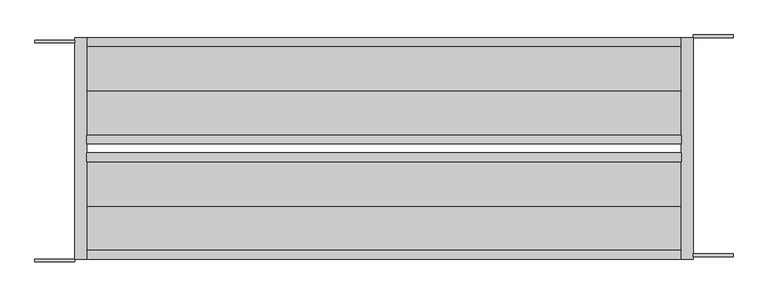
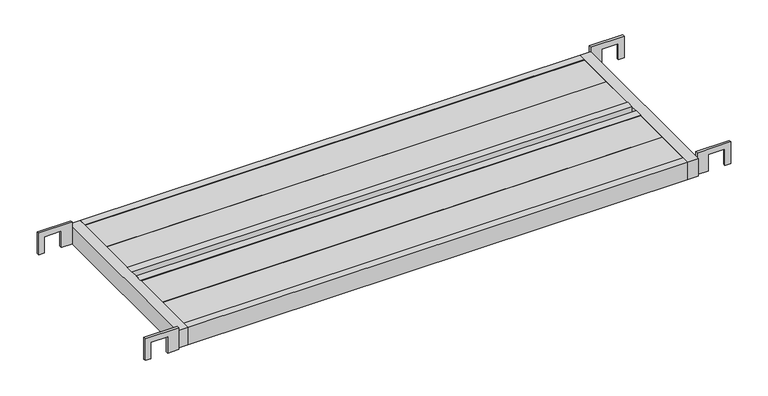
"""IFC4 building model written with IfcOpenShell, lengths in millimetres: proxy geometry, AKK布板HF-515_斜線なし_軽 : 鋼製布板 HF-515."""

from ifc_helpers import new_model, si_unit, frame, origin, place, context, project, spatial, polyline, outline, extrude, source, transform, mapped, element, save


def generic_models_806800af(model_context):
    return source(origin(), model_context, "Body", "SweptSolid", [
        extrude(outline(polyline([(37.5, 1460.0), (-24.1, 1460.0), (-24.1, 1489.5), (22.0, 1489.5), (22.0, 1534.5), (-24.1, 1534.5), (-24.1, 1549.5), (37.5, 1549.5), (37.5, 1460.0)])), frame((0.0, 12.0, 0.0), z_axis=(0.0, 1.0, 0.0), x_axis=(0.0, 0.0, 1.0)), (0.0, 0.0, 1.0), 6.0),
        extrude(outline(polyline([(37.5, 1460.0), (-24.1, 1460.0), (-24.1, 1489.5), (22.0, 1489.5), (22.0, 1534.5), (-24.1, 1534.5), (-24.1, 1549.5), (37.5, 1549.5), (37.5, 1460.0)])), frame((0.0, 506.0, 0.0), z_axis=(0.0, 1.0, 0.0), x_axis=(0.0, 0.0, 1.0)), (0.0, 0.0, 1.0), 6.0),
        extrude(outline(polyline([(37.5, -25.5), (-24.1, -25.5), (-24.1, -10.5), (22.0, -10.5), (22.0, 34.5), (-24.1, 34.5), (-24.1, 64.0), (37.5, 64.0), (37.5, -25.5)])), frame((0.0, 0.0, 0.0), z_axis=(0.0, 1.0, 0.0), x_axis=(0.0, 0.0, 1.0)), (0.0, 0.0, 1.0), 6.0),
        extrude(outline(polyline([(37.5, -25.5), (-24.1, -25.5), (-24.1, -10.5), (22.0, -10.5), (22.0, 34.5), (-24.1, 34.5), (-24.1, 64.0), (37.5, 64.0), (37.5, -25.5)])), frame((0.0, 494.0, 0.0), z_axis=(0.0, 1.0, 0.0), x_axis=(0.0, 0.0, 1.0)), (0.0, 0.0, 1.0), 6.0),
        extrude(outline(polyline([(1432.0, 486.0), (1432.0, 386.0), (92.0, 386.0), (92.0, 486.0), (1432.0, 486.0)])), frame((0.0, 0.0, 17.5), z_axis=(0.0, 0.0, 1.0), x_axis=(1.0, 0.0, 0.0)), (0.0, 0.0, 1.0), 5.0),
        extrude(outline(polyline([(1432.0, 386.0), (1432.0, 286.0), (92.0, 286.0), (92.0, 386.0), (1432.0, 386.0)])), frame((0.0, 0.0, 17.5), z_axis=(0.0, 0.0, 1.0), x_axis=(1.0, 0.0, 0.0)), (0.0, 0.0, 1.0), 5.0),
        extrude(outline(polyline([(1432.0, 226.0), (1432.0, 126.0), (92.0, 126.0), (92.0, 226.0), (1432.0, 226.0)])), frame((0.0, 0.0, 17.5), z_axis=(0.0, 0.0, 1.0), x_axis=(1.0, 0.0, 0.0)), (0.0, 0.0, 1.0), 5.0),
        extrude(outline(polyline([(1432.0, 126.0), (1432.0, 26.0), (92.0, 26.0), (92.0, 126.0), (1432.0, 126.0)])), frame((0.0, 0.0, 17.5), z_axis=(0.0, 0.0, 1.0), x_axis=(1.0, 0.0, 0.0)), (0.0, 0.0, 1.0), 5.0),
        extrude(outline(polyline([(1432.0, 286.0), (1432.0, 266.0), (92.0, 266.0), (92.0, 286.0), (1432.0, 286.0)])), frame((0.0, 0.0, -25.0), z_axis=(0.0, 0.0, 1.0), x_axis=(1.0, 0.0, 0.0)), (0.0, 0.0, 1.0), 50.0),
        extrude(outline(polyline([(1432.0, 246.0), (1432.0, 226.0), (92.0, 226.0), (92.0, 246.0), (1432.0, 246.0)])), frame((0.0, 0.0, -25.0), z_axis=(0.0, 0.0, 1.0), x_axis=(1.0, 0.0, 0.0)), (0.0, 0.0, 1.0), 50.0),
        extrude(outline(polyline([(1432.0, 6.0), (1432.0, 506.0), (1460.0, 506.0), (1460.0, 6.0), (1432.0, 6.0)])), frame((0.0, 0.0, -25.0), z_axis=(0.0, 0.0, 1.0), x_axis=(1.0, 0.0, 0.0)), (0.0, 0.0, 1.0), 50.0),
        extrude(outline(polyline([(64.0, 6.0), (64.0, 506.0), (92.0, 506.0), (92.0, 6.0), (64.0, 6.0)])), frame((0.0, 0.0, -25.0), z_axis=(0.0, 0.0, 1.0), x_axis=(1.0, 0.0, 0.0)), (0.0, 0.0, 1.0), 50.0),
        extrude(outline(polyline([(1432.0, 506.0), (1432.0, 486.0), (92.0, 486.0), (92.0, 506.0), (1432.0, 506.0)])), frame((0.0, 0.0, -25.0), z_axis=(0.0, 0.0, 1.0), x_axis=(1.0, 0.0, 0.0)), (0.0, 0.0, 1.0), 50.0),
        extrude(outline(polyline([(1432.0, 26.0), (1432.0, 6.0), (92.0, 6.0), (92.0, 26.0), (1432.0, 26.0)])), frame((0.0, 0.0, -25.0), z_axis=(0.0, 0.0, 1.0), x_axis=(1.0, 0.0, 0.0)), (0.0, 0.0, 1.0), 50.0),
    ])


if __name__ == "__main__":
    model = new_model("IFC4")
    model_context = context("Model", 3, world=origin())
    ifc_project = project(units=[si_unit("LENGTHUNIT", "METRE", prefix="MILLI")], contexts=[model_context])
    site = spatial("IfcSite", under=ifc_project)
    building = spatial("IfcBuilding", under=site)
    placement = place(None, origin())
    generic_models_shape = generic_models_806800af(model_context)
    element("IfcBuildingElementProxy", 1, Name="AKK布板HF-515_斜線なし_軽 : 鋼製布板 HF-515", ObjectType="AKK布板HF-515_斜線なし_軽 : 鋼製布板 HF-515", at=placement, inside=building, context=model_context, shape_type="MappedRepresentation", body=[
        mapped(generic_models_shape, transform((0.0, 0.0, 0.0), x_axis=(1.0, 0.0, 0.0), y_axis=(0.0, 1.0, 0.0), z_axis=(0.0, 0.0, 1.0))),
    ])
    save(model, "model.ifc")
